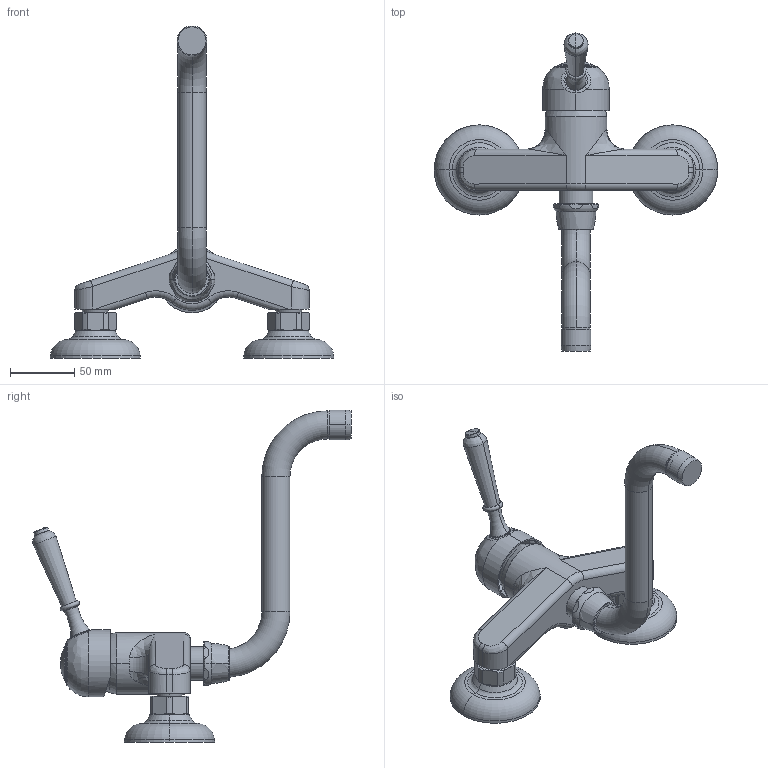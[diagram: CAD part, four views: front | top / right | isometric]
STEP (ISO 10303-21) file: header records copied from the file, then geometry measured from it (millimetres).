
FILE_DESCRIPTION((''),'2;1');
FILE_NAME('F3366_FILE_3D','2014-10-10T',('ivanv'),(''),'PRO/ENGINEER BY PARAMETRIC TECHNOLOGY CORPORATION, 2012130','PRO/ENGINEER BY PARAMETRIC TECHNOLOGY CORPORATION, 2012130','');
FILE_SCHEMA(('CONFIG_CONTROL_DESIGN'));
Length unit declared in the file: millimetre
Products named in the file (1): F3366_FILE_3D
Bounding box: 220 x 247.12 x 257.57 mm (x, y, z)
Volume: 513064.4 mm3; surface area: 93088.2 mm2
Topology: 2 solids, 5 shells, 439 faces, 995 edges, 574 vertices
Faces by surface type: cylinder 120, plane 113, cone 78, torus 74, bspline 46, sphere 8
Entity records: 16091 total; most frequent: CARTESIAN_POINT 6526, DIRECTION 2041, ORIENTED_EDGE 1962, EDGE_CURVE 981, AXIS2_PLACEMENT_3D 849, VERTEX_POINT 574, EDGE_LOOP 471, CIRCLE 456
